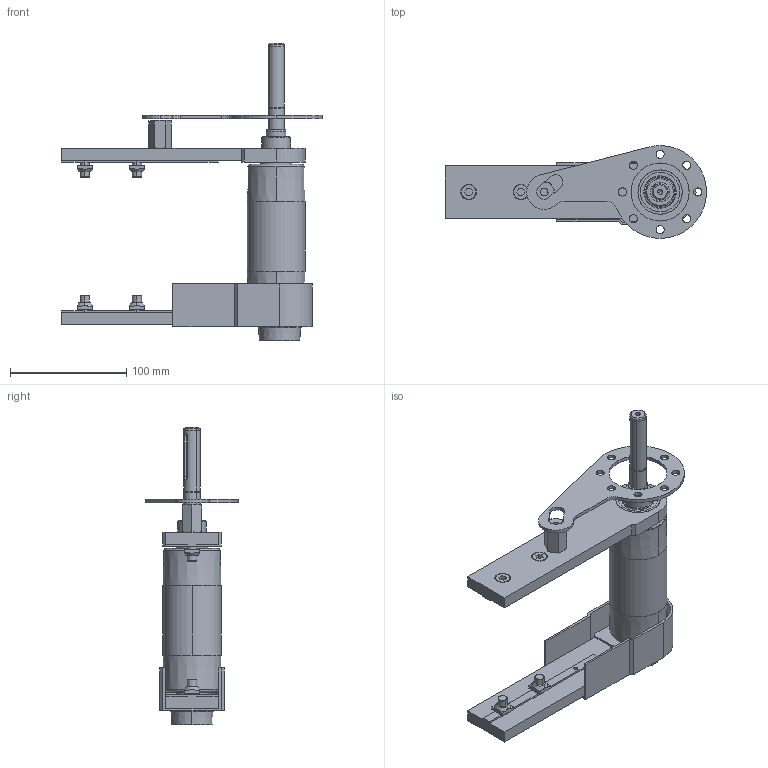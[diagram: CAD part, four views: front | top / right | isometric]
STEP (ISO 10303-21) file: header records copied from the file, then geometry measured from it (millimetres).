
FILE_DESCRIPTION (( 'STEP AP203' ), '1' );
FILE_NAME ('084.050.KD.30.100.STEP', '2019-07-29T10:05:03', ( '' ), ( '' ), 'SwSTEP 2.0', 'SolidWorks 2018', '' );
FILE_SCHEMA (( 'CONFIG_CONTROL_DESIGN' ));
Length unit declared in the file: millimetre
Products named in the file (14): 084.050.KD.30.100; 084.807.002_084.807.002; 084.811.001; VITI TSEI UNI 5933_M4x12 UNI 5933; 084.802.027; 084.302.000 DADI ALUSIC 13x13_084.302.004; 084.815.101_Default<A macchina>; 084.810.001; 084.802.023_084.802.023; 084.807.005; 084.807.003_084.807.003; 084.802.017_084.802.017; 084.811.004; 084.301.000 VITI ALUSIC_084.301.003
Assembly tree (22 placements, depth 2):
  084.050.KD.30.100
    084.807.002_084.807.002
    084.807.003_084.807.003
    084.802.017_084.802.017  x2
    084.811.004
    084.815.101_Default<A macchina>
    084.810.001  x2
    084.802.023_084.802.023
    084.811.001
    084.802.027
    084.301.000 VITI ALUSIC_084.301.003  x4
    084.302.000 DADI ALUSIC 13x13_084.302.004  x4
    VITI TSEI UNI 5933_M4x12 UNI 5933  x2
    084.807.005
Bounding box: 225 x 80 x 256.5 mm (x, y, z)
Volume: 397434.8 mm3; surface area: 210354.3 mm2
Topology: 24 solids, 26 shells, 713 faces, 1770 edges, 1144 vertices
Faces by surface type: plane 310, cylinder 239, cone 78, torus 70, sphere 8, bspline 8
Entity records: 17517 total; most frequent: CARTESIAN_POINT 3148, DIRECTION 2809, ORIENTED_EDGE 2536, EDGE_CURVE 1268, AXIS2_PLACEMENT_3D 1089, VERTEX_POINT 824, VECTOR 631, LINE 631
